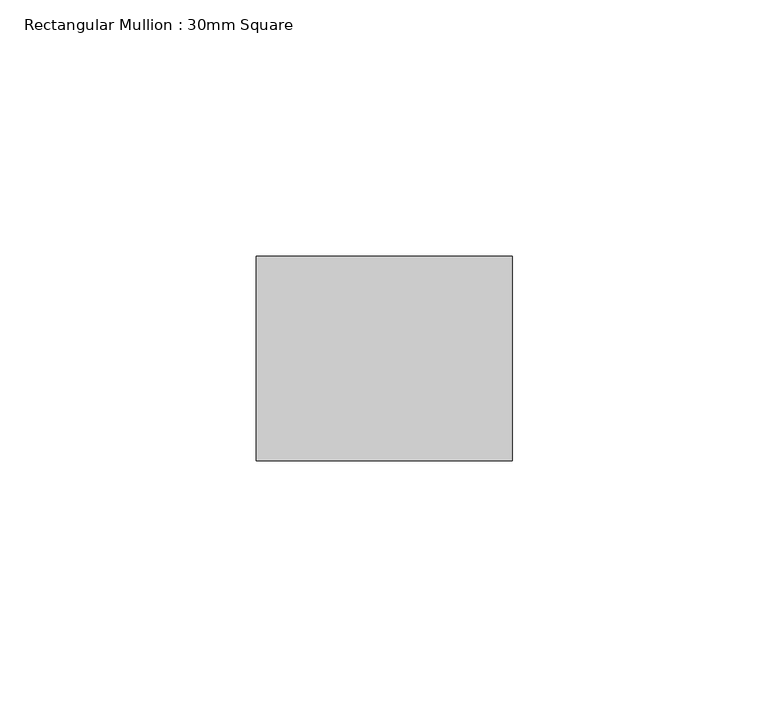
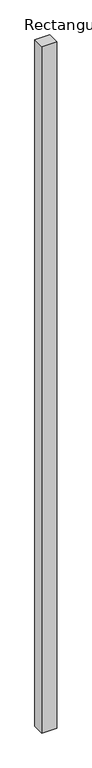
"""IFC4 building model written with IfcOpenShell, lengths in millimetres: member geometry, Rectangular Mullion : 30mm Square."""

from ifc_helpers import new_model, si_unit, frame, origin, place, context, project, spatial, polyline, outline, extrude, source, transform, mapped, element, save


def rectangular_mullion_30mm_square_3c403d27(model_context):
    return source(origin(), model_context, "Body", "SweptSolid", [
        extrude(outline(polyline([(25.0, 20.0), (25.0, -20.0), (-25.0, -20.0), (-25.0, 20.0), (25.0, 20.0)])), frame((0.0, 0.0, -2441.9040728), z_axis=(0.0, 0.0, 1.0), x_axis=(1.0, 0.0, 0.0)), (0.0, 0.0, 1.0), 2441.9040728),
    ])


if __name__ == "__main__":
    model = new_model("IFC4")
    model_context = context("Model", 3, world=origin())
    ifc_project = project(units=[si_unit("LENGTHUNIT", "METRE", prefix="MILLI")], contexts=[model_context])
    site = spatial("IfcSite", under=ifc_project)
    building = spatial("IfcBuilding", under=site)
    placement = place(None, origin())
    rectangular_mullion_30mm_square_shape = rectangular_mullion_30mm_square_3c403d27(model_context)
    element("IfcMember", 1, ObjectType="Rectangular Mullion : 30mm Square", at=placement, inside=building, context=model_context, shape_type="MappedRepresentation", body=[
        mapped(rectangular_mullion_30mm_square_shape, transform((0.0, 0.0, 0.0), x_axis=(1.0, 0.0, 0.0), y_axis=(0.0, 1.0, 0.0), z_axis=(0.0, 0.0, 1.0))),
    ])
    save(model, "model.ifc")
